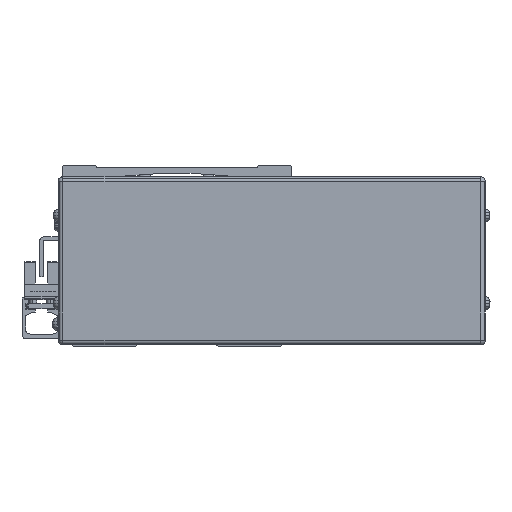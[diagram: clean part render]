
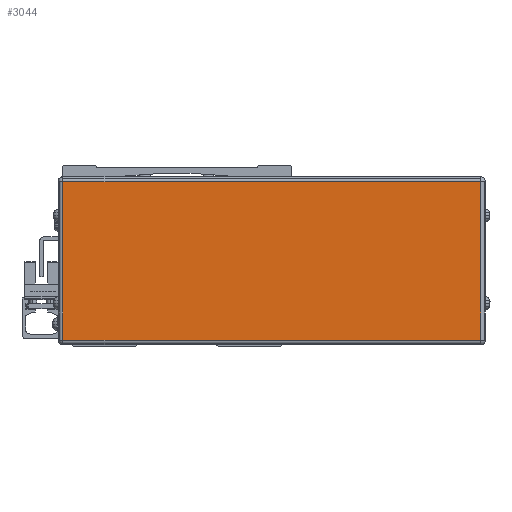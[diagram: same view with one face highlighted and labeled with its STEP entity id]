
A CAD part, front view. The second image highlights one B-rep face of the part: STEP entity #3044.
In plain terms, the highlighted planar face has unit normal (0, -1, 0).
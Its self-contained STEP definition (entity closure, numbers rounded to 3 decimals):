
#3044=ADVANCED_FACE('',(#8192),#8193,.T.);
#8192=FACE_OUTER_BOUND('',#15961,.T.);
#8193=PLANE('',#15962);
#15961=EDGE_LOOP('',(#25722,#25723,#25724,#25725));
#15962=AXIS2_PLACEMENT_3D('',#25726,#25727,#25728);
#25722=ORIENTED_EDGE('',*,*,#47592,.F.);
#25723=ORIENTED_EDGE('',*,*,#47593,.F.);
#25724=ORIENTED_EDGE('',*,*,#47594,.F.);
#25725=ORIENTED_EDGE('',*,*,#47595,.F.);
#25726=CARTESIAN_POINT('',(39.,-138.778,-42.5));
#25727=DIRECTION('',(0.0,-1.0,0.0));
#25728=DIRECTION('',(1.0,0.0,0.0));
#47592=EDGE_CURVE('',#56883,#56884,#56885,.T.);
#47593=EDGE_CURVE('',#56886,#56883,#56887,.T.);
#47594=EDGE_CURVE('',#56888,#56886,#56889,.T.);
#47595=EDGE_CURVE('',#56884,#56888,#56890,.T.);
#56883=VERTEX_POINT('',#70316);
#56884=VERTEX_POINT('',#70317);
#56885=LINE('',#70318,#70319);
#56886=VERTEX_POINT('',#70320);
#56887=LINE('',#70321,#70322);
#56888=VERTEX_POINT('',#70323);
#56889=LINE('',#70324,#70325);
#56890=LINE('',#70326,#70327);
#70316=CARTESIAN_POINT('',(124.7,-138.778,-40.5));
#70317=CARTESIAN_POINT('',(-46.7,-138.778,-40.5));
#70318=CARTESIAN_POINT('',(39.,-138.778,-40.5));
#70319=VECTOR('',#88334,10.0);
#70320=CARTESIAN_POINT('',(124.7,-138.778,24.5));
#70321=CARTESIAN_POINT('',(124.7,-138.778,-42.5));
#70322=VECTOR('',#88335,10.0);
#70323=CARTESIAN_POINT('',(-46.7,-138.778,24.5));
#70324=CARTESIAN_POINT('',(39.,-138.778,24.5));
#70325=VECTOR('',#88336,10.0);
#70326=CARTESIAN_POINT('',(-46.7,-138.778,-42.5));
#70327=VECTOR('',#88337,10.0);
#88334=DIRECTION('',(-1.0,0.0,0.0));
#88335=DIRECTION('',(0.0,0.0,-1.0));
#88336=DIRECTION('',(1.0,0.0,0.0));
#88337=DIRECTION('',(0.0,0.0,1.0));
